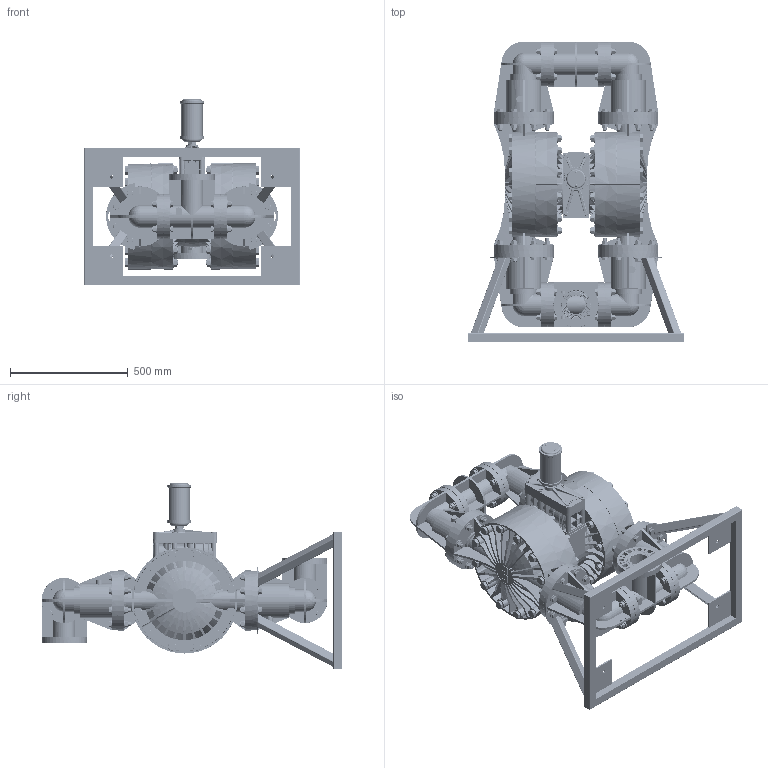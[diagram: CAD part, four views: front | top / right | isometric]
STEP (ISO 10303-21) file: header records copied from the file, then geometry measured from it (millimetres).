
FILE_DESCRIPTION (( 'STEP AP203' ), '1' );
FILE_NAME ('p1500_advanced_plastic.STEP', '2022-07-05T07:52:40', ( '' ), ( '' ), 'SwSTEP 2.0', 'SolidWorks 2019', '' );
FILE_SCHEMA (( 'CONFIG_CONTROL_DESIGN' ));
Products named in the file (1): p1500_advanced_plastic
Bounding box: 914.4 x 1276.22 x 791.86 mm (x, y, z)
Volume: 113663841.6 mm3; surface area: 6117764.1 mm2
Topology: 1 solids, 1 shells, 13612 faces, 34918 edges, 21965 vertices
Faces by surface type: plane 8509, cone 2064, cylinder 1692, bspline 700, sphere 404, torus 243
Entity records: 543562 total; most frequent: CARTESIAN_POINT 223424, ORIENTED_EDGE 69798, DIRECTION 61826, EDGE_CURVE 34899, VERTEX_POINT 21961, VECTOR 21134, LINE 21134, AXIS2_PLACEMENT_3D 20346
